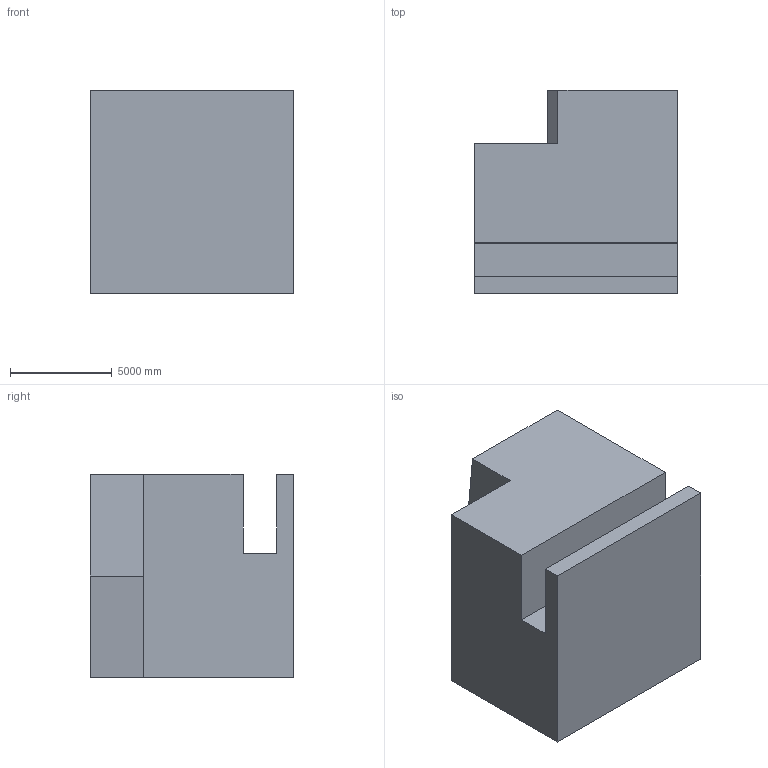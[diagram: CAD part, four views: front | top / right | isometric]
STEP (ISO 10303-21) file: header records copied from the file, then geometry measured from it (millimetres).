
FILE_DESCRIPTION (( 'STEP AP203' ), '1' );
FILE_NAME ('133.STEP', '2022-09-06T13:21:24', ( 'user' ), ( '' ), 'SwSTEP 2.0', 'SolidWorks 2021', '' );
FILE_SCHEMA (( 'CONFIG_CONTROL_DESIGN' ));
Length unit declared in the file: centimetre
Products named in the file (1): 133
Bounding box: 10000 x 10000 x 10000 mm (x, y, z)
Volume: 823005985206 mm3; surface area: 648784886.1 mm2
Topology: 1 solids, 1 shells, 20 faces, 51 edges, 34 vertices
Faces by surface type: plane 16, cylinder 4
Entity records: 680 total; most frequent: CARTESIAN_POINT 106, ORIENTED_EDGE 102, DIRECTION 101, EDGE_CURVE 51, LINE 43, VECTOR 43, VERTEX_POINT 34, AXIS2_PLACEMENT_3D 29
